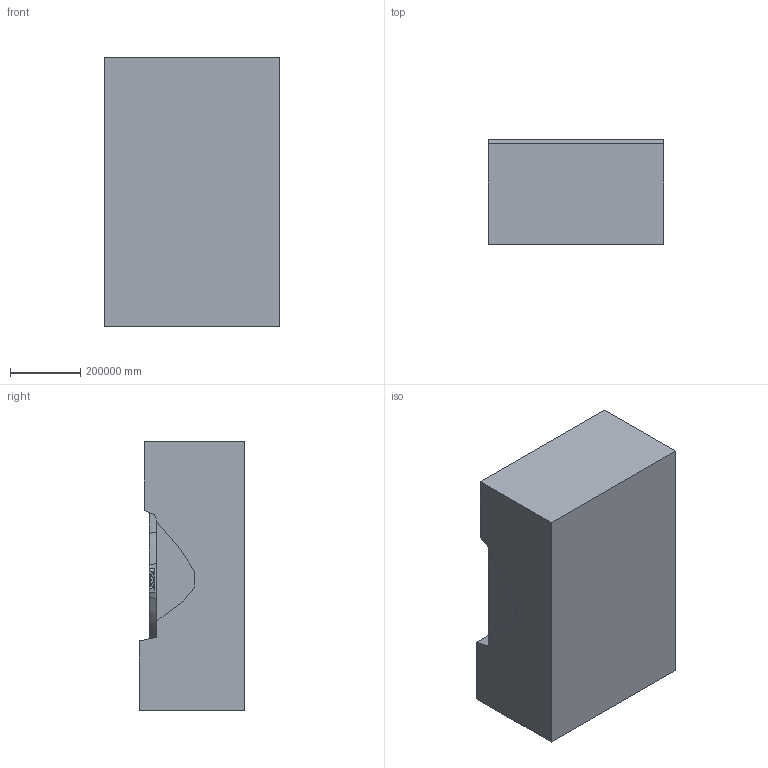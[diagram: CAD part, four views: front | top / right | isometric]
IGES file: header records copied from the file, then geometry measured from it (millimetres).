
Global section: file name: Continuous dam FINAL meters111; native system: AutoCAD 2022 - English; preprocessor: Autodesk Translation Framework DWG producer (atf_dwg_producer); organization: unknown; date: 20241209.123736; units: metre
Bounding box: 499974.27 x 300000 x 764913.73 mm (x, y, z)
Volume: 99006386649709232 mm3; surface area: 1779168172546.9 mm2
Topology: 3 solids, 3 shells, 112 faces, 327 edges, 214 vertices
Faces by surface type: bspline 112
